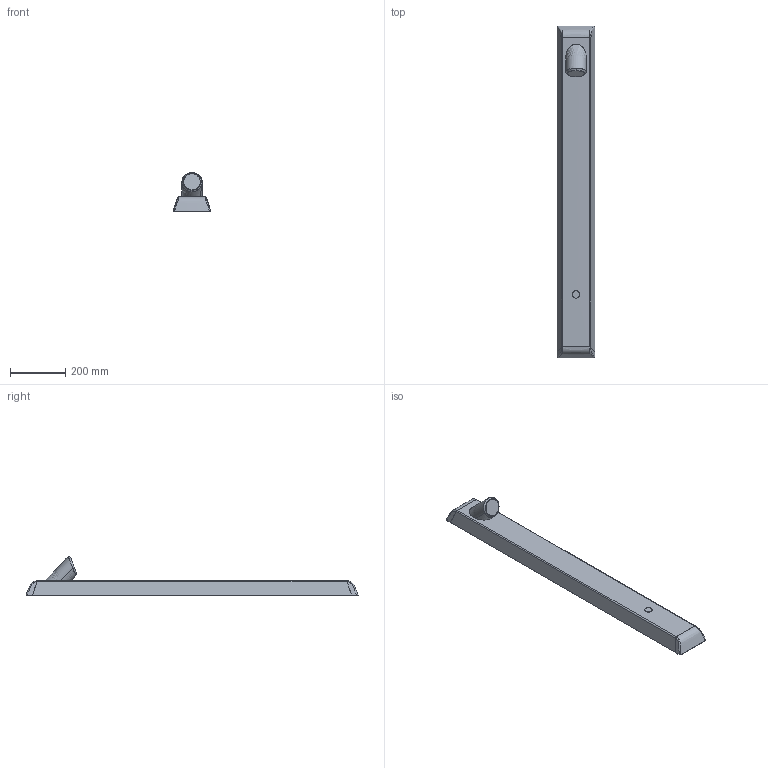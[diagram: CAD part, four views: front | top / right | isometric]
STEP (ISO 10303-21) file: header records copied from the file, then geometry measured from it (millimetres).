
FILE_DESCRIPTION (( 'STEP AP203' ), '1' );
FILE_NAME ('9610FTZ(2026)+96102009(2026).STEP', '2026-02-10T09:09:32', ( '' ), ( '' ), 'SwSTEP 2.0', 'SolidWorks 2024', '' );
FILE_SCHEMA (( 'CONFIG_CONTROL_DESIGN' ));
Length unit declared in the file: millimetre
Products named in the file (1): 9610FTZ(2026)+96102009(2026)
Bounding box: 135.43 x 1198.7 x 139.02 mm (x, y, z)
Volume: 7585265.2 mm3; surface area: 444988 mm2
Topology: 2 solids, 2 shells, 134 faces, 349 edges, 217 vertices
Faces by surface type: bspline 86, cylinder 29, plane 19
Entity records: 12276 total; most frequent: CARTESIAN_POINT 9671, ORIENTED_EDGE 682, EDGE_CURVE 341, DIRECTION 297, VERTEX_POINT 217, B_SPLINE_CURVE_WITH_KNOTS 203, EDGE_LOOP 140, ADVANCED_FACE 134
